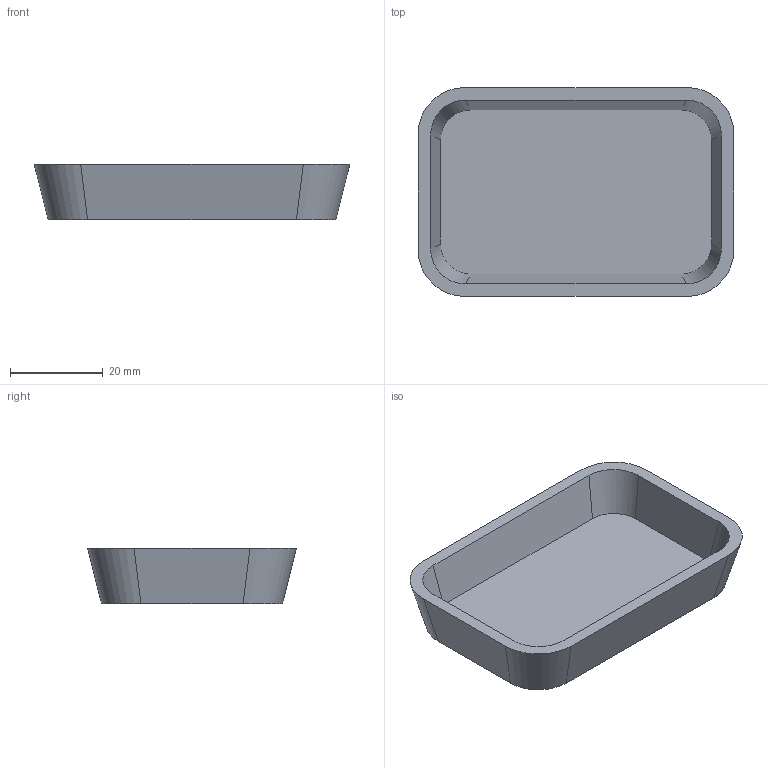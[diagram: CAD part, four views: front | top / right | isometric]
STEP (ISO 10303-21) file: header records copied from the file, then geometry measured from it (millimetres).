
FILE_DESCRIPTION(('Open CASCADE Model'),'2;1');
FILE_NAME('Open CASCADE Shape Model','2026-09-13T15:24:12',('Author'),( 'Open CASCADE'),'Open CASCADE STEP processor 7.9','build123d', 'Unknown');
FILE_SCHEMA(('AUTOMOTIVE_DESIGN { 1 0 10303 214 1 1 1 1 }'));
Length unit declared in the file: millimetre
Products named in the file (2): =>[0:1:1:2]; COMPOUND
Assembly tree (1 placements, depth 2):
  =>[0:1:1:2]
    COMPOUND
Bounding box: 68 x 45 x 12 mm (x, y, z)
Volume: 10058.4 mm3; surface area: 9231.6 mm2
Topology: 1 solids, 1 shells, 19 faces, 48 edges, 32 vertices
Faces by surface type: bspline 16, plane 3
Entity records: 1530 total; most frequent: CARTESIAN_POINT 645, DIRECTION 118, ORIENTED_EDGE 96, PCURVE 96, DEFINITIONAL_REPRESENTATION 96, LINE 72, VECTOR 72, EDGE_CURVE 48
